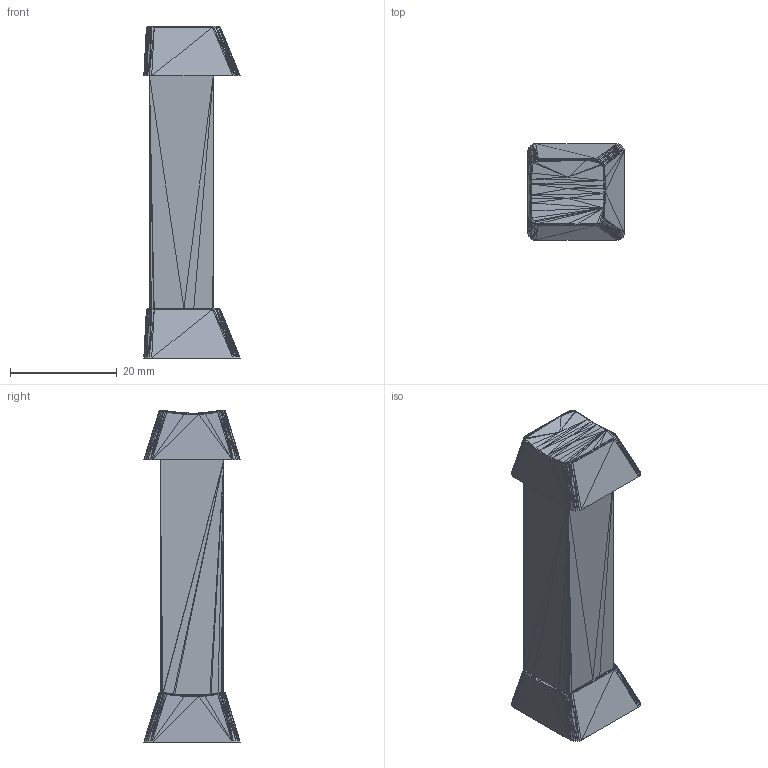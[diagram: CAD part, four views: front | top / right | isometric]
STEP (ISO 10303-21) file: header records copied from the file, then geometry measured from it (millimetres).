
FILE_DESCRIPTION(('Open CASCADE Model'),'2;1');
FILE_NAME('Open CASCADE Shape Model','2026-10-28T02:26:10',('Author'),( 'Open CASCADE'),'Open CASCADE STEP processor 7.9','Open CASCADE 7.9' ,'Unknown');
FILE_SCHEMA(('AUTOMOTIVE_DESIGN { 1 0 10303 214 1 1 1 1 }'));
Products named in the file (1): Open CASCADE STEP translator 7.9 2
Bounding box: 18.1 x 18.1 x 62.35 mm (x, y, z)
Volume: 8206 mm3; surface area: 5454.1 mm2
Topology: 1 solids, 2 shells, 2088 faces, 3132 edges, 1046 vertices
Faces by surface type: plane 2088
Entity records: 81456 total; most frequent: DIRECTION 13574, CARTESIAN_POINT 12531, LINE 9396, VECTOR 9396, ORIENTED_EDGE 6264, PCURVE 6264, DEFINITIONAL_REPRESENTATION 6264, EDGE_CURVE 3132
